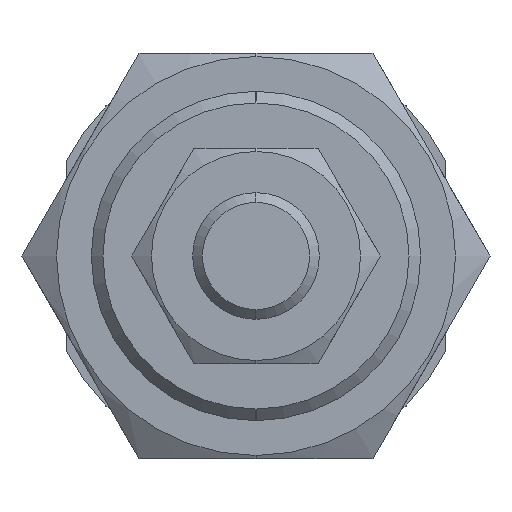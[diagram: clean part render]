
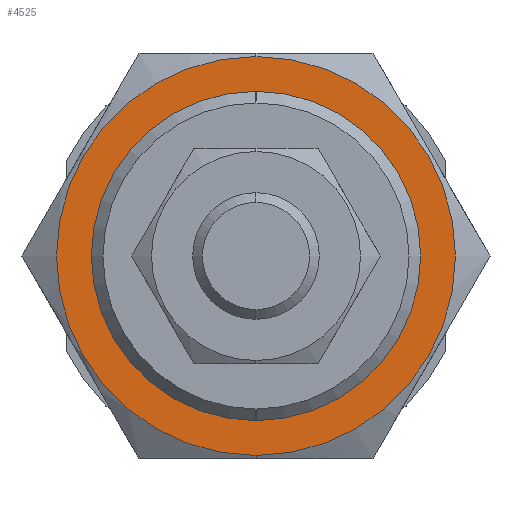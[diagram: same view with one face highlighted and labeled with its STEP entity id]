
A CAD part, left-side view. The second image highlights one B-rep face of the part: STEP entity #4525.
In plain terms, the highlighted planar face has unit normal (-1, 0, 0).
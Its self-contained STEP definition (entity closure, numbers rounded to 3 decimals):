
#58 = EDGE_CURVE ( 'NONE', #3453, #681, #3512, .T. ) ;
#164 = ORIENTED_EDGE ( 'NONE', *, *, #58, .F. ) ;
#188 = CARTESIAN_POINT ( 'NONE',  ( -11., 0., -13. ) ) ;
#223 = CARTESIAN_POINT ( 'NONE',  ( -11., 0., 0. ) ) ;
#244 = CARTESIAN_POINT ( 'NONE',  ( -11., 0., 15.75 ) ) ;
#301 = ORIENTED_EDGE ( 'NONE', *, *, #4317, .T. ) ;
#681 = VERTEX_POINT ( 'NONE', #244 ) ;
#721 = DIRECTION ( 'NONE',  ( 1., 0., 0. ) ) ;
#779 = CIRCLE ( 'NONE', #4240, 13. ) ;
#1000 = DIRECTION ( 'NONE',  ( 1., 0., 0. ) ) ;
#1050 = DIRECTION ( 'NONE',  ( 1., 0., 0. ) ) ;
#1181 = AXIS2_PLACEMENT_3D ( 'NONE', #1917, #721, #5217 ) ;
#1764 = CARTESIAN_POINT ( 'NONE',  ( -11., 0., 0. ) ) ;
#1807 = ORIENTED_EDGE ( 'NONE', *, *, #5198, .T. ) ;
#1917 = CARTESIAN_POINT ( 'NONE',  ( -11., 0., 0. ) ) ;
#1988 = CARTESIAN_POINT ( 'NONE',  ( -11., 0., 13. ) ) ;
#2073 = DIRECTION ( 'NONE',  ( 1., 0., 0. ) ) ;
#2191 = AXIS2_PLACEMENT_3D ( 'NONE', #4262, #4721, #5052 ) ;
#2410 = CIRCLE ( 'NONE', #5007, 13. ) ;
#2676 = DIRECTION ( 'NONE',  ( 0., 0., -1. ) ) ;
#2693 = DIRECTION ( 'NONE',  ( 0., 1., 0. ) ) ;
#3094 = FACE_BOUND ( 'NONE', #3848, .T. ) ;
#3119 = VERTEX_POINT ( 'NONE', #1988 ) ;
#3130 = ORIENTED_EDGE ( 'NONE', *, *, #3332, .F. ) ;
#3252 = AXIS2_PLACEMENT_3D ( 'NONE', #223, #1050, #2693 ) ;
#3332 = EDGE_CURVE ( 'NONE', #681, #3453, #4260, .T. ) ;
#3453 = VERTEX_POINT ( 'NONE', #5304 ) ;
#3512 = CIRCLE ( 'NONE', #1181, 15.75 ) ;
#3711 = DIRECTION ( 'NONE',  ( 0., 0., -1. ) ) ;
#3848 = EDGE_LOOP ( 'NONE', ( #1807, #301 ) ) ;
#4119 = CARTESIAN_POINT ( 'NONE',  ( -11., 0., 0. ) ) ;
#4240 = AXIS2_PLACEMENT_3D ( 'NONE', #4119, #2073, #3711 ) ;
#4260 = CIRCLE ( 'NONE', #2191, 15.75 ) ;
#4262 = CARTESIAN_POINT ( 'NONE',  ( -11., 0., 0. ) ) ;
#4317 = EDGE_CURVE ( 'NONE', #4585, #3119, #779, .T. ) ;
#4342 = FACE_OUTER_BOUND ( 'NONE', #4586, .T. ) ;
#4525 = ADVANCED_FACE ( 'NONE', ( #4342, #3094 ), #4752, .F. ) ;
#4585 = VERTEX_POINT ( 'NONE', #188 ) ;
#4586 = EDGE_LOOP ( 'NONE', ( #164, #3130 ) ) ;
#4721 = DIRECTION ( 'NONE',  ( 1., 0., 0. ) ) ;
#4752 = PLANE ( 'NONE',  #3252 ) ;
#5007 = AXIS2_PLACEMENT_3D ( 'NONE', #1764, #1000, #2676 ) ;
#5052 = DIRECTION ( 'NONE',  ( 0., 0., -1. ) ) ;
#5198 = EDGE_CURVE ( 'NONE', #3119, #4585, #2410, .T. ) ;
#5217 = DIRECTION ( 'NONE',  ( 0., 0., -1. ) ) ;
#5304 = CARTESIAN_POINT ( 'NONE',  ( -11., 0., -15.75 ) ) ;
